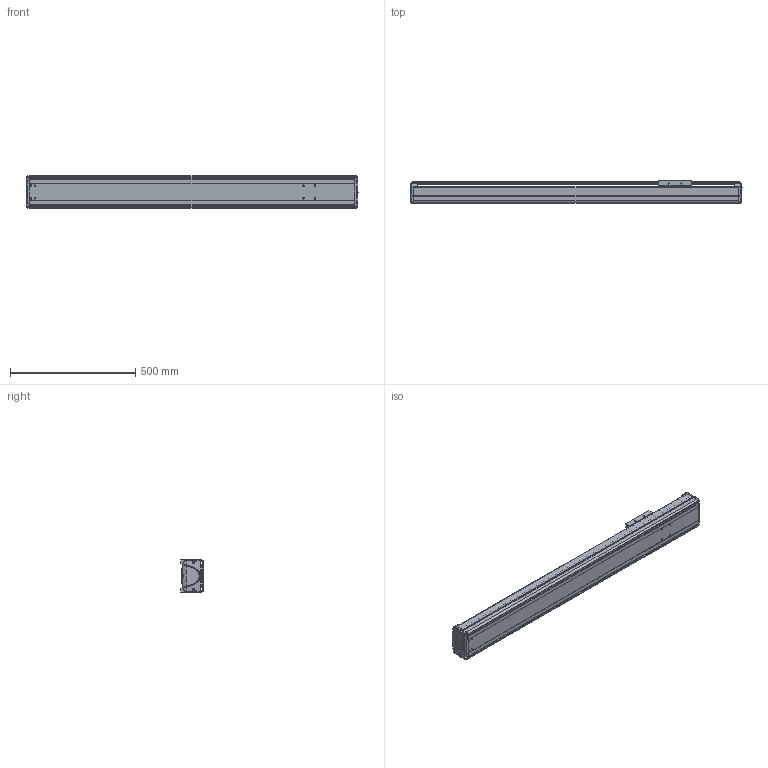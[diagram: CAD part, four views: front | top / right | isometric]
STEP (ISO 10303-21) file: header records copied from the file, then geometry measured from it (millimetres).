
FILE_DESCRIPTION((''),'2;1');
FILE_NAME('BE30E-ST-M_B-95_IGS_PRT','2017-06-17T',(' '),(''),'PRO/ENGINEER BY PARAMETRIC TECHNOLOGY CORPORATION, 2015030','PRO/ENGINEER BY PARAMETRIC TECHNOLOGY CORPORATION, 2015030','');
FILE_SCHEMA(('CONFIG_CONTROL_DESIGN'));
Length unit declared in the file: millimetre
Products named in the file (1): BE30E-ST-M_B-95_IGS_PRT
Bounding box: 1325 x 89.8 x 130 mm (x, y, z)
Volume: 4011998.6 mm3; surface area: 1574823.6 mm2
Topology: 3 solids, 90 shells, 1374 faces, 3697 edges, 2419 vertices
Faces by surface type: cylinder 631, plane 592, bspline 55, torus 42, cone 30, sphere 24
Entity records: 46151 total; most frequent: CARTESIAN_POINT 11555, DIRECTION 7136, ORIENTED_EDGE 7008, EDGE_CURVE 3677, AXIS2_PLACEMENT_3D 2588, VERTEX_POINT 2419, VECTOR 1960, LINE 1960
